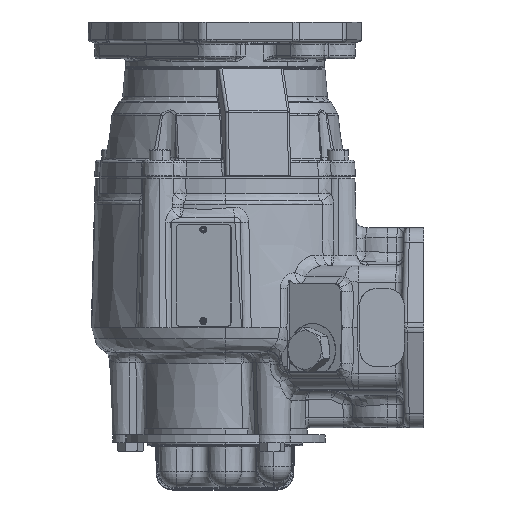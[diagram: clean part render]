
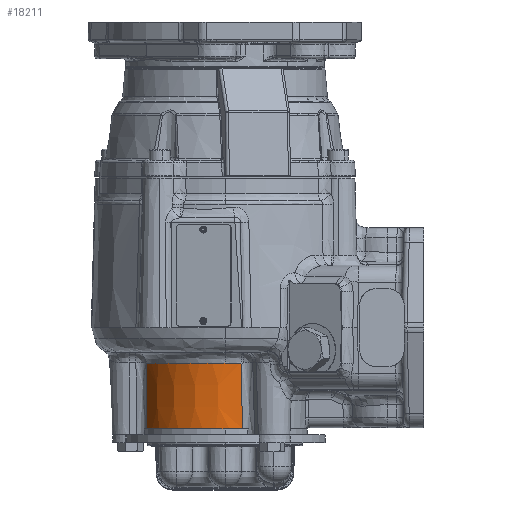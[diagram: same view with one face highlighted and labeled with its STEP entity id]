
A CAD part, left-side view. The second image highlights one B-rep face of the part: STEP entity #18211.
In plain terms, the highlighted conical face has half-angle 1 degrees and reference radius 47.516 mm.
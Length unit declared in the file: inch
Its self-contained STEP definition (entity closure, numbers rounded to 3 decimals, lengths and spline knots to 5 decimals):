
#2343 = ORIENTED_EDGE ( 'NONE', *, *, #59781, .T. ) ;
#11097 = DIRECTION ( 'NONE',  ( 0.702, -0.712, 0. ) ) ;
#16191 = CARTESIAN_POINT ( 'NONE',  ( -0.95456, 3.79632, -0.36839 ) ) ;
#18211 = ADVANCED_FACE ( 'NONE', ( #154690 ), #64747, .T. ) ;
#23522 = DIRECTION ( 'NONE',  ( 0.702, -0.712, 0. ) ) ;
#24259 = AXIS2_PLACEMENT_3D ( 'NONE', #107090, #119766, #11097 ) ;
#31500 = VERTEX_POINT ( 'NONE', #83746 ) ;
#35269 = DIRECTION ( 'NONE',  ( 0., 0., -1. ) ) ;
#39960 = VERTEX_POINT ( 'NONE', #16191 ) ;
#44413 = AXIS2_PLACEMENT_3D ( 'NONE', #140787, #35269, #118565 ) ;
#46732 = CARTESIAN_POINT ( 'NONE',  ( -3.10185, 3.45347, -0.36839 ) ) ;
#55003 = EDGE_LOOP ( 'NONE', ( #102302, #82210, #2343, #75059, #61431 ) ) ;
#57457 = EDGE_CURVE ( 'NONE', #77044, #142506, #65765, .T. ) ;
#59781 = EDGE_CURVE ( 'NONE', #39960, #31500, #116147, .T. ) ;
#61431 = ORIENTED_EDGE ( 'NONE', *, *, #103859, .T. ) ;
#64747 = CONICAL_SURFACE ( 'NONE', #24259, 1.87071, 0.017 ) ;
#65765 = CIRCLE ( 'NONE', #103854, 1.87071 ) ;
#66080 = AXIS2_PLACEMENT_3D ( 'NONE', #153616, #132207, #23522 ) ;
#72969 = DIRECTION ( 'NONE',  ( 0.702, -0.712, 0. ) ) ;
#75059 = ORIENTED_EDGE ( 'NONE', *, *, #85765, .F. ) ;
#77044 = VERTEX_POINT ( 'NONE', #126896 ) ;
#80727 = CARTESIAN_POINT ( 'NONE',  ( -3.33392, 3.14426, -1.36248 ) ) ;
#82210 = ORIENTED_EDGE ( 'NONE', *, *, #133723, .T. ) ;
#83746 = CARTESIAN_POINT ( 'NONE',  ( -0.93024, 3.75479, -1.85235 ) ) ;
#85765 = EDGE_CURVE ( 'NONE', #114316, #31500, #154780, .T. ) ;
#96036 = DIRECTION ( 'NONE',  ( 0., 0., -1. ) ) ;
#102302 = ORIENTED_EDGE ( 'NONE', *, *, #57457, .T. ) ;
#103854 = AXIS2_PLACEMENT_3D ( 'NONE', #132498, #96036, #72969 ) ;
#103859 = EDGE_CURVE ( 'NONE', #114316, #77044, #119278, .T. ) ;
#106909 = CARTESIAN_POINT ( 'NONE',  ( -3.33312, 3.17647, -0.36839 ) ) ;
#107090 = CARTESIAN_POINT ( 'NONE',  ( -1.78818, 2.12162, -0.36839 ) ) ;
#108651 = CARTESIAN_POINT ( 'NONE',  ( -0.93024, 3.75479, -1.85235 ) ) ;
#109431 = CARTESIAN_POINT ( 'NONE',  ( -0.95456, 3.79632, -0.36839 ) ) ;
#114316 = VERTEX_POINT ( 'NONE', #134687 ) ;
#116147 = B_SPLINE_CURVE_WITH_KNOTS ( 'NONE', 3,
 ( #109431, #118977, #144372, #108651 ),
 .UNSPECIFIED., .F., .F.,
 ( 4, 4 ),
 ( 0., 1. ),
 .UNSPECIFIED. ) ;
#118565 = DIRECTION ( 'NONE',  ( 0.702, -0.712, 0. ) ) ;
#118977 = CARTESIAN_POINT ( 'NONE',  ( -0.94624, 3.78244, -0.86782 ) ) ;
#119278 = B_SPLINE_CURVE_WITH_KNOTS ( 'NONE', 3,
 ( #152924, #80727, #128333, #106909 ),
 .UNSPECIFIED., .F., .F.,
 ( 4, 4 ),
 ( 0., 1. ),
 .UNSPECIFIED. ) ;
#119766 = DIRECTION ( 'NONE',  ( 0., 0., 1. ) ) ;
#126896 = CARTESIAN_POINT ( 'NONE',  ( -3.33312, 3.17647, -0.36839 ) ) ;
#128333 = CARTESIAN_POINT ( 'NONE',  ( -3.33361, 3.1603, -0.86782 ) ) ;
#132207 = DIRECTION ( 'NONE',  ( 0., 0., -1. ) ) ;
#132498 = CARTESIAN_POINT ( 'NONE',  ( -1.78818, 2.12162, -0.36839 ) ) ;
#133723 = EDGE_CURVE ( 'NONE', #142506, #39960, #148276, .T. ) ;
#134687 = CARTESIAN_POINT ( 'NONE',  ( -3.33408, 3.12836, -1.85235 ) ) ;
#140787 = CARTESIAN_POINT ( 'NONE',  ( -1.78818, 2.12162, -0.36839 ) ) ;
#142506 = VERTEX_POINT ( 'NONE', #46732 ) ;
#144372 = CARTESIAN_POINT ( 'NONE',  ( -0.93814, 3.7686, -1.36248 ) ) ;
#148276 = CIRCLE ( 'NONE', #44413, 1.87071 ) ;
#152924 = CARTESIAN_POINT ( 'NONE',  ( -3.33408, 3.12836, -1.85235 ) ) ;
#153616 = CARTESIAN_POINT ( 'NONE',  ( -1.78818, 2.12162, -1.85235 ) ) ;
#154690 = FACE_OUTER_BOUND ( 'NONE', #55003, .T. ) ;
#154780 = CIRCLE ( 'NONE', #66080, 1.84481 ) ;
